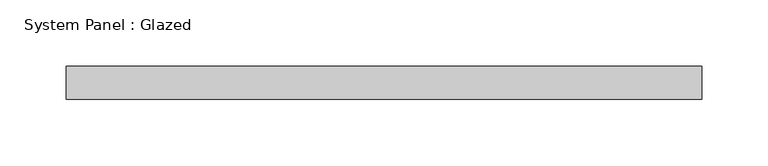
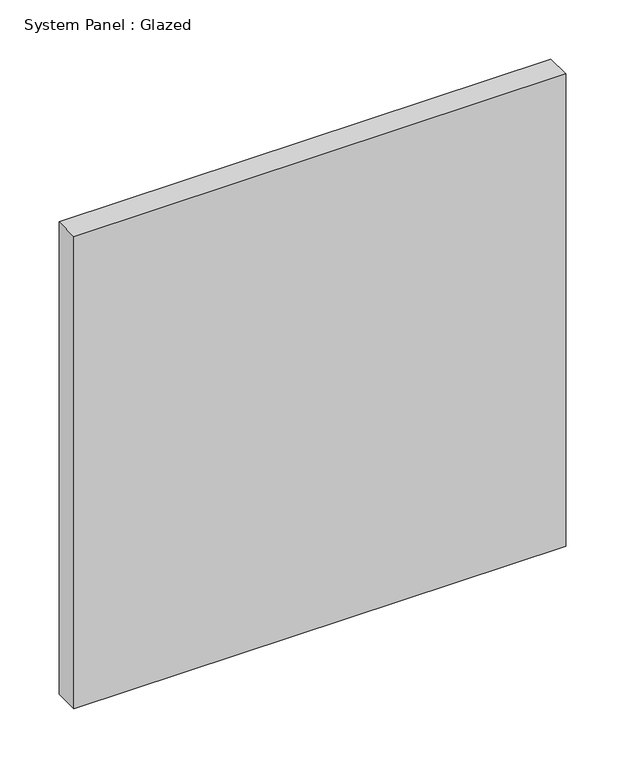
"""IFC4 building model written with IfcOpenShell, lengths in millimetres: plate geometry, System Panel : Glazed."""

import ifcopenshell
import ifcopenshell.guid

model = None  # the IFC model being written
_history = None  # IfcOwnerHistory: only IFC2X3 demands one
_inside = {}  # id of a spatial element -> (the spatial element, [elements in it])
_under = {}  # id of a project, library or spatial element -> (it, [spatial elements below it])
_declared = {}  # id of a project -> (the project, [libraries it declares])
_typed = {}  # id of a type object -> (the type object, [elements of that type])
_made_of = {}  # id of a material, layer set ... -> (it, [elements and type objects made of it])


def new_model(schema):
    """Start an empty IFC model of exactly this schema.

    Asked for "IFC4X3", IfcOpenShell would pick the latest addendum, in which some entities
    have other attributes; the version numbers below select the first issue.
    IFC2X3 requires an IfcOwnerHistory on every rooted entity: one is made here for all.
    """
    global model, _history
    if schema == "IFC4X3":
        model = ifcopenshell.file(schema_version=(4, 3, 0, 0))
    else:
        model = ifcopenshell.file(schema=schema)
    _inside.clear()
    _under.clear()
    _declared.clear()
    _typed.clear()
    _made_of.clear()
    _history = None
    if model.schema == "IFC2X3":
        org = make("IfcOrganization", Name="unknown")
        user = make(
            "IfcPersonAndOrganization",
            ThePerson=make("IfcPerson", FamilyName="unknown"),
            TheOrganization=org,
        )
        app = make(
            "IfcApplication",
            ApplicationDeveloper=org,
            Version="unknown",
            ApplicationFullName="unknown",
            ApplicationIdentifier="unknown",
        )
        _history = make(
            "IfcOwnerHistory",
            OwningUser=user,
            OwningApplication=app,
            ChangeAction="ADDED",
            CreationDate=0,
        )
    return model


def make(cls, **values):
    """One entity of the class cls with the attributes given. An attribute that is None is left unset."""
    return model.create_entity(
        cls, **{name: value for name, value in values.items() if value is not None}
    )


def rooted(cls, **values):
    """An entity with a GlobalId (a new one), such as an element, a storey or a relation."""
    return make(cls, GlobalId=ifcopenshell.guid.new(), OwnerHistory=_history, **values)


def si_unit(unit_type, name, prefix=None):
    """IfcSIUnit, for example si_unit("LENGTHUNIT", "METRE", prefix="MILLI")."""
    return make("IfcSIUnit", UnitType=unit_type, Prefix=prefix, Name=name)


def assignment(units):
    """IfcUnitAssignment: the units of a project."""
    return None if units is None else make("IfcUnitAssignment", Units=units)


def point(xyz):
    """IfcCartesianPoint."""
    return None if xyz is None else make("IfcCartesianPoint", Coordinates=xyz)


def direction(xyz):
    """IfcDirection."""
    return None if xyz is None else make("IfcDirection", DirectionRatios=xyz)


def frame(location, z_axis=None, x_axis=None):
    """IfcAxis2Placement3D, a coordinate frame: its origin and axes. An axis left out is left unset."""
    return make(
        "IfcAxis2Placement3D",
        Location=point(location),
        Axis=direction(z_axis),
        RefDirection=direction(x_axis),
    )


def origin():
    """The frame at (0, 0, 0) with its axes left unset."""
    return frame((0.0, 0.0, 0.0))


def origin_with_axes():
    """The frame at (0, 0, 0) with the z axis (0, 0, 1) and the x axis (1, 0, 0) written out."""
    return frame((0.0, 0.0, 0.0), z_axis=(0.0, 0.0, 1.0), x_axis=(1.0, 0.0, 0.0))


def place(relative_to, where):
    """IfcLocalPlacement: puts the frame where relative to a parent placement (None: the world)."""
    return make(
        "IfcLocalPlacement", PlacementRelTo=relative_to, RelativePlacement=where
    )


def context(
    kind, dimensions, precision=None, world=None, true_north=None, identifier=None
):
    """IfcGeometricRepresentationContext, for example the 3D "Model" context."""
    return make(
        "IfcGeometricRepresentationContext",
        ContextIdentifier=identifier,
        ContextType=kind,
        CoordinateSpaceDimension=dimensions,
        Precision=precision,
        WorldCoordinateSystem=world,
        TrueNorth=true_north,
    )


def project(units=None, contexts=None):
    """IfcProject with its units and contexts."""
    return rooted(
        "IfcProject",
        Name="project",
        RepresentationContexts=contexts,
        UnitsInContext=assignment(units),
    )


def spatial(cls, under=None, at=None, **own):
    """A site, building, storey or space (cls), placed at a placement, below another one or the project."""
    s = rooted(cls, ObjectPlacement=at, **own)
    if under is not None:
        _under.setdefault(under.id(), (under, []))[1].append(s)
    return s


def polyline(points):
    """IfcPolyline through the points."""
    return make("IfcPolyline", Points=[point(p) for p in points])


def outline(outer, holes=None, kind="AREA"):
    """IfcArbitraryClosedProfileDef: a profile drawn as a closed curve; with holes, ...WithVoids."""
    if holes is None:
        return make("IfcArbitraryClosedProfileDef", ProfileType=kind, OuterCurve=outer)
    return make(
        "IfcArbitraryProfileDefWithVoids",
        ProfileType=kind,
        OuterCurve=outer,
        InnerCurves=holes,
    )


def extrude(swept, where, along, depth):
    """IfcExtrudedAreaSolid: the profile swept, set in the frame where, extruded along a direction by depth."""
    return make(
        "IfcExtrudedAreaSolid",
        SweptArea=swept,
        Position=where,
        ExtrudedDirection=direction(along),
        Depth=depth,
    )


def shape(context_of_items, identifier, shape_type, items):
    """IfcShapeRepresentation: the items that make up one representation, for example the "Body"."""
    return make(
        "IfcShapeRepresentation",
        ContextOfItems=context_of_items,
        RepresentationIdentifier=identifier,
        RepresentationType=shape_type,
        Items=items,
    )


def source(mapping_origin, context_of_items, identifier, shape_type, items):
    """IfcRepresentationMap: a shape defined once, which mapped items show again and again."""
    return make(
        "IfcRepresentationMap",
        MappingOrigin=mapping_origin,
        MappedRepresentation=shape(context_of_items, identifier, shape_type, items),
    )


def transform(
    local_origin,
    x_axis=None,
    y_axis=None,
    z_axis=None,
    scale=None,
    scale2=None,
    scale3=None,
    uniform=True,
):
    """IfcCartesianTransformationOperator3D, or its non-uniform kind. x_axis, y_axis, z_axis: its Axis1, 2, 3."""
    if uniform:
        return make(
            "IfcCartesianTransformationOperator3D",
            Axis1=direction(x_axis),
            Axis2=direction(y_axis),
            LocalOrigin=point(local_origin),
            Scale=scale,
            Axis3=direction(z_axis),
        )
    return make(
        "IfcCartesianTransformationOperator3DnonUniform",
        Axis1=direction(x_axis),
        Axis2=direction(y_axis),
        LocalOrigin=point(local_origin),
        Scale=scale,
        Axis3=direction(z_axis),
        Scale2=scale2,
        Scale3=scale3,
    )


def mapped(mapping_source, mapping_target):
    """IfcMappedItem: shows the shape of a source again, moved by a transform."""
    return make(
        "IfcMappedItem", MappingSource=mapping_source, MappingTarget=mapping_target
    )


def made_of(thing, what):
    """Note that an element or type object is made of a material, layer set ...; save() writes the relation."""
    if what is not None:
        _made_of.setdefault(what.id(), (what, []))[1].append(thing)
    return thing


def element(
    cls,
    number,
    at=None,
    inside=None,
    cuts=None,
    type_object=None,
    material=None,
    context=None,
    identifier="Body",
    shape_type=None,
    held_by="IfcProductDefinitionShape",
    body=None,
    shapes=None,
    **own,
):
    """One element of the class cls, such as IfcWall. Its Tag is "e" and its number.

    at: its placement. inside: the storey or other place that contains it. cuts: it is an
    opening in that element (IfcRelVoidsElement). A single representation is given by context,
    identifier, shape_type and body (its items); several are given by shapes. held_by: the class
    of the entity that holds the representations. save() writes the other relations.
    """
    e = rooted(cls, Tag="e%d" % number, ObjectPlacement=at, **own)
    if body is not None:
        shapes = [shape(context, identifier, shape_type, body)]
    if shapes is not None:
        e.Representation = make(held_by, Representations=shapes)
    if inside is not None:
        _inside.setdefault(inside.id(), (inside, []))[1].append(e)
    if cuts is not None:
        rooted(
            "IfcRelVoidsElement", RelatingBuildingElement=cuts, RelatedOpeningElement=e
        )
    if type_object is not None:
        _typed.setdefault(type_object.id(), (type_object, []))[1].append(e)
    return made_of(e, material)


def aggregate(whole, parts):
    """IfcRelAggregates: a whole, such as a stair, and the parts it consists of."""
    return rooted("IfcRelAggregates", RelatingObject=whole, RelatedObjects=parts)


def save(model, path):
    """Write the relations noted so far, then the file.

    IfcRelAggregates (storeys below a building ...), IfcRelContainedInSpatialStructure (elements
    in a storey), IfcRelDefinesByType, IfcRelAssociatesMaterial and IfcRelDeclares: one each for
    every whole, place, type object, material and project.
    """
    for whole, parts in _under.values():
        aggregate(whole, parts)
    for where, things in _inside.values():
        rooted(
            "IfcRelContainedInSpatialStructure",
            RelatedElements=things,
            RelatingStructure=where,
        )
    for kind, things in _typed.values():
        rooted("IfcRelDefinesByType", RelatedObjects=things, RelatingType=kind)
    for what, things in _made_of.values():
        rooted("IfcRelAssociatesMaterial", RelatedObjects=things, RelatingMaterial=what)
    for by, libraries in _declared.values():
        rooted("IfcRelDeclares", RelatingContext=by, RelatedDefinitions=libraries)
    model.write(path)


def system_panel_glazed_ace2095a(model_context):
    return source(origin(), model_context, "Body", "SweptSolid", [
        extrude(outline(polyline([(240.0, 24.5), (-240.0, 24.5), (-240.0, 49.5), (240.0, 49.5), (240.0, 24.5)])), origin_with_axes(), (0.0, 0.0, 1.0), 487.270441),
    ])


if __name__ == "__main__":
    model = new_model("IFC4")
    model_context = context("Model", 3, world=origin())
    ifc_project = project(units=[si_unit("LENGTHUNIT", "METRE", prefix="MILLI")], contexts=[model_context])
    site = spatial("IfcSite", under=ifc_project)
    building = spatial("IfcBuilding", under=site)
    placement = place(None, origin())
    system_panel_glazed_shape = system_panel_glazed_ace2095a(model_context)
    element("IfcPlate", 1, ObjectType="System Panel : Glazed", at=placement, inside=building, context=model_context, shape_type="MappedRepresentation", body=[
        mapped(system_panel_glazed_shape, transform((0.0, 0.0, 0.0), x_axis=(1.0, 0.0, 0.0), y_axis=(0.0, 1.0, 0.0), z_axis=(0.0, 0.0, 1.0))),
    ])
    save(model, "model.ifc")
